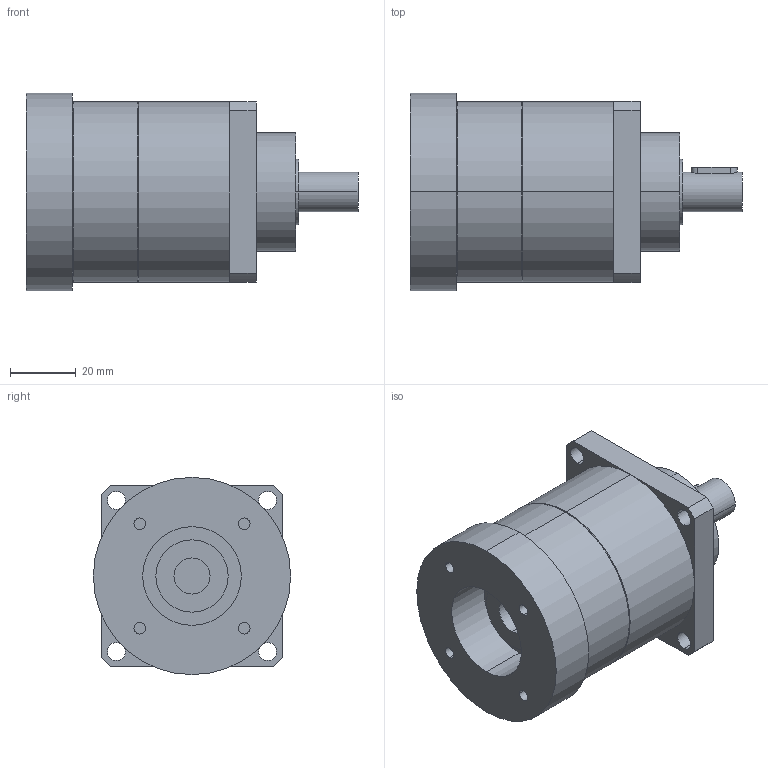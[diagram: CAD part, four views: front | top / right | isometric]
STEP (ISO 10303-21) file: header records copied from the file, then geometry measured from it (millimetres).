
FILE_DESCRIPTION(('CoCreate Modeling STEP Export'),'2;1');
FILE_NAME('GPT55_ig-3-4-5-7-10_12_B5A_11_P16.stp','2014-08-25T14:31:23',(''),(''),'CoCreate Modeling STEP processor for AP214 (Solid Model)','CoCreate Modeling 16.00C 25-Feb-2009 (C) Parametric Technology GmbH','');
FILE_SCHEMA(('AUTOMOTIVE_DESIGN { 1 0 10303 214 1 1 1 1 }'));
Length unit declared in the file: millimetre
Products named in the file (2): GPT55_ig-3-4-5-7-10_12_B5A_11_P16
Assembly tree (1 placements, depth 2):
  GPT55_ig-3-4-5-7-10_12_B5A_11_P16
    GPT55_ig-3-4-5-7-10_12_B5A_11_P16
Bounding box: 101 x 60 x 60 mm (x, y, z)
Volume: 179974.7 mm3; surface area: 25292 mm2
Topology: 1 solids, 1 shells, 72 faces, 180 edges, 123 vertices
Faces by surface type: cylinder 42, plane 26, cone 4
Entity records: 2237 total; most frequent: CARTESIAN_POINT 661, ORIENTED_EDGE 360, DIRECTION 268, EDGE_CURVE 180, VERTEX_POINT 123, AXIS2_PLACEMENT_3D 100, EDGE_LOOP 93, FACE_OUTER_BOUND 72
